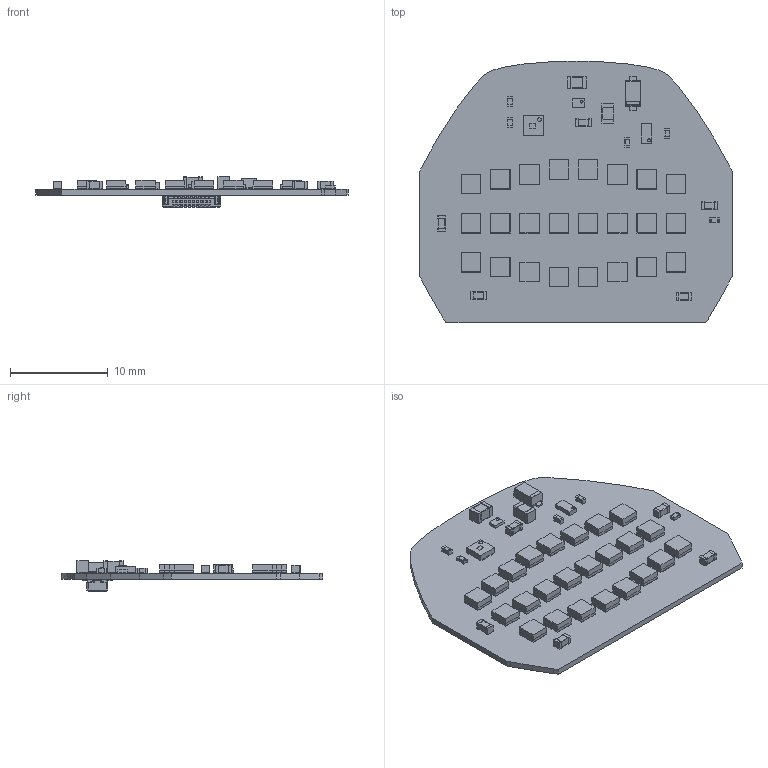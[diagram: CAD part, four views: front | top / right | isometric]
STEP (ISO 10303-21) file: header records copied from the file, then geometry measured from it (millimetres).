
FILE_DESCRIPTION(('KiCad electronic assembly'),'2;1');
FILE_NAME('fp-rgb.step','2019-08-20T22:55:01',('An Author'),('A Company' ),'Open CASCADE STEP processor 7.3','KiCad to STEP converter', 'Unknown');
FILE_SCHEMA(('AUTOMOTIVE_DESIGN { 1 0 10303 214 1 1 1 1 }'));
Length unit declared in the file: millimetre
Products named in the file (24): Open CASCADE STEP translator 7.3 1; APA102_2020_LED; COMPOUND; C_0603_1608Metric; SOLID; R_0402_1005Metric; L_0805_2012Metric; D_SOD-123F; C_0402_1005Metric; dfn_APDS-9306-065; 559090274; bga_YFF0006; dfn_XSON8_SOT833-1; C_0805_2012Metric
Assembly tree (53 placements, depth 3):
  Open CASCADE STEP translator 7.3 1
    APA102_2020_LED  x24
      COMPOUND
    C_0603_1608Metric  x5
      SOLID
    R_0402_1005Metric  x2
      SOLID
    L_0805_2012Metric
      SOLID
    D_SOD-123F
      SOLID
    C_0402_1005Metric  x3
      SOLID
    dfn_APDS-9306-065
      SOLID
    559090274
      COMPOUND
    bga_YFF0006
      SOLID
    dfn_XSON8_SOT833-1
      SOLID
    C_0805_2012Metric
      SOLID
    SOLID
Bounding box: 31.99 x 26.78 x 3.12 mm (x, y, z)
Volume: 575.9 mm3; surface area: 2488.5 mm2
Topology: 354 solids, 354 shells, 3289 faces, 7613 edges, 5186 vertices
Faces by surface type: plane 2980, cylinder 289, bspline 10, sphere 6, cone 4
Full cylindrical faces by diameter (mm): 0.08 x24, 0.3 x2, 0.4 x1
Entity records: 79982 total; most frequent: CARTESIAN_POINT 14787, DIRECTION 11813, LINE 8479, VECTOR 8479, ORIENTED_EDGE 6154, PCURVE 6154, DEFINITIONAL_REPRESENTATION 6154, EDGE_CURVE 3077
